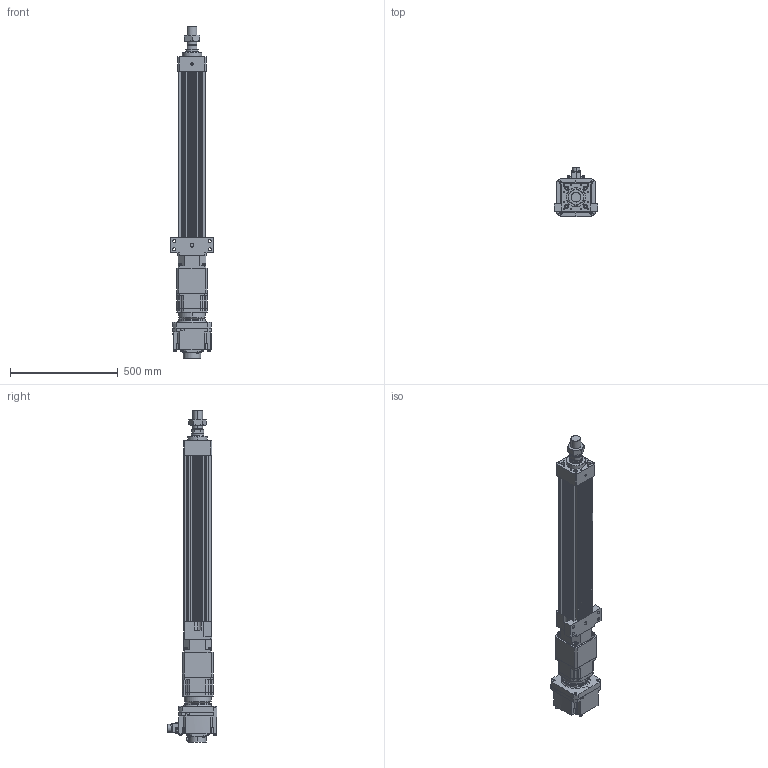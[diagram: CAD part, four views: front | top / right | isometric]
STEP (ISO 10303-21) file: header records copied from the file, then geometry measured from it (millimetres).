
FILE_DESCRIPTION (( 'STEP AP203' ), '1' );
FILE_NAME ('HES130FS(HS)-S550-W020G00-M-FFC.STEP', '2023-01-31T03:21:56', ( 'tms' ), ( '' ), 'SwSTEP 2.0', 'SolidWorks 2013', '' );
FILE_SCHEMA (( 'CONFIG_CONTROL_DESIGN' ));
Length unit declared in the file: millimetre
Products named in the file (9): HES130-S550-G142-FFC; HES130FS(HS)-S550-W020G00-M-FFC; AB142-003[HG-SR352]; P0403500801; HES130 ROD M ST550; AB1421; M45X1.5P; P1301500001; HG-SR202
Assembly tree (8 placements, depth 3):
  HES130FS(HS)-S550-W020G00-M-FFC
    HES130-S550-G142-FFC
    HES130 ROD M ST550
    M45X1.5P
    AB142-003[HG-SR352]
      AB1421
      P1301500001
      P0403500801
    HG-SR202
Bounding box: 200 x 228.85 x 1537.5 mm (x, y, z)
Volume: 13505875.8 mm3; surface area: 1763179 mm2
Topology: 4 solids, 22 shells, 1546 faces, 3982 edges, 2565 vertices
Faces by surface type: cylinder 694, plane 586, cone 184, bspline 76, torus 6
Entity records: 55838 total; most frequent: CARTESIAN_POINT 16862, DIRECTION 8160, ORIENTED_EDGE 7822, EDGE_CURVE 3933, AXIS2_PLACEMENT_3D 3080, VERTEX_POINT 2565, LINE 2000, VECTOR 2000
